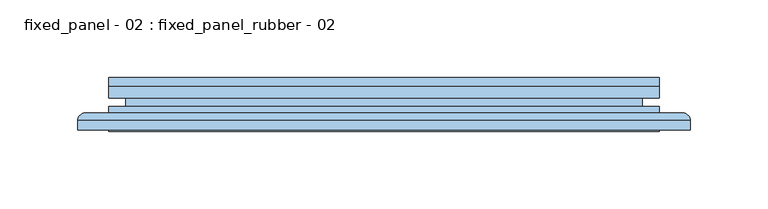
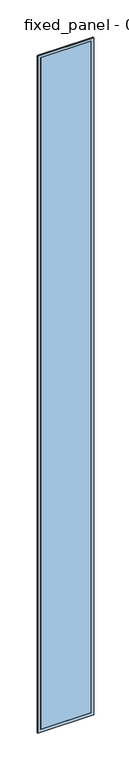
"""IFC4 building model written with IfcOpenShell, lengths in millimetres: window geometry, fixed_panel - 02 : fixed_panel_rubber - 02."""

from ifc_helpers import new_model, si_unit, frame, origin, origin_with_axes, place, context, project, spatial, polyline, ellipse_curve, outline, extrude, faceted_brep, source, transform, mapped, element, save
from ifc_brep_helpers import plane_surface, cylinder_surface, advanced_brep


def fixed_panel_02_fixed_panel_rubber_02_17601ea6(model_context):
    return source(origin(), model_context, "Body", "SolidModel", [
        advanced_brep(
        [(177.5046761, -27.9878211, 5000.0), (182.5046761, -22.9878211, 5005.0), (182.5046761, -22.9878211, -5.0), (177.5046761, -27.9878211, 0.0), (192.5023541, -22.9878211, -14.9976779), (-192.5023541, -22.9878211, -14.9976779), (-192.5023541, -22.9878211, 5014.9976779), (192.5023541, -22.9878211, 5014.9976779), (-182.5046761, -22.9878211, 5005.0), (-182.5046761, -22.9878211, -5.0), (-177.5046761, -27.9878211, 0.0), (177.5046761, -34.0, 5000.0), (177.5046761, -34.0, 0.0), (-177.5046761, -34.0, 0.0), (197.4980296, -34.0, 5019.9933535), (-197.4980296, -34.0, 5019.9933535), (-197.4980296, -34.0, -19.9933535), (197.4980296, -34.0, -19.9933535), (-177.5046761, -34.0, 5000.0), (197.4980296, -27.9834967, 5019.9933535), (197.4980296, -27.9834967, -19.9933535), (-197.4980296, -27.9834967, -19.9933535), (-177.5046761, -27.9878211, 5000.0), (-197.4980296, -27.9834967, 5019.9933535)],
        [
            (0, 1, ellipse_curve(frame((182.5046761, -27.9878211, 5005.0), z_axis=(0.7071067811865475, 0.0, -0.7071067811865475), x_axis=(0.7071067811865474, 0.0, 0.7071067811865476)), 7.0710678, 5.0)),
            (1, 2),
            (2, 3, ellipse_curve(frame((182.5046761, -27.9878211, -5.0), z_axis=(0.7071067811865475, 0.0, 0.7071067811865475), x_axis=(-0.7071067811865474, 0.0, 0.7071067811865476)), 7.0710678, 5.0)),
            (3, 0),
            (4, 5),
            (5, 6),
            (6, 7),
            (7, 4),
            (1, 8),
            (8, 9),
            (9, 2),
            (9, 10, ellipse_curve(frame((-182.5046761, -27.9878211, -5.0), z_axis=(0.7071067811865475, 0.0, -0.7071067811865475), x_axis=(0.7071067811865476, 0.0, 0.7071067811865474)), 7.0710678, 5.0)),
            (10, 3),
            (11, 0),
            (3, 12),
            (12, 11),
            (10, 13),
            (13, 12),
            (14, 15),
            (15, 16),
            (16, 17),
            (17, 14),
            (13, 18),
            (18, 11),
            (19, 14),
            (17, 20),
            (20, 19),
            (16, 21),
            (21, 20),
            (7, 19, ellipse_curve(frame((192.5023541, -27.9834967, 5014.9976779), z_axis=(0.7071067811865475, 0.0, -0.7071067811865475), x_axis=(0.7071067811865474, 0.0, 0.7071067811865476)), 7.0649521, 4.9956756)),
            (20, 4, ellipse_curve(frame((192.5023541, -27.9834967, -14.9976779), z_axis=(0.7071067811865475, 0.0, 0.7071067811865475), x_axis=(-0.7071067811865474, 0.0, 0.7071067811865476)), 7.0649521, 4.9956756)),
            (21, 5, ellipse_curve(frame((-192.5023541, -27.9834967, -14.9976779), z_axis=(0.7071067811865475, 0.0, -0.7071067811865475), x_axis=(0.7071067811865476, 0.0, 0.7071067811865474)), 7.0649521, 4.9956756)),
            (8, 22, ellipse_curve(frame((-182.5046761, -27.9878211, 5005.0), z_axis=(-0.7071067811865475, 0.0, -0.7071067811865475), x_axis=(0.7071067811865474, 0.0, -0.7071067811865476)), 7.0710678, 5.0)),
            (22, 10),
            (22, 18),
            (15, 23),
            (23, 21),
            (23, 6, ellipse_curve(frame((-192.5023541, -27.9834967, 5014.9976779), z_axis=(-0.7071067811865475, 0.0, -0.7071067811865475), x_axis=(0.7071067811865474, 0.0, -0.7071067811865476)), 7.0649521, 4.9956756)),
            (0, 22),
            (19, 23),
        ],
        [
            cylinder_surface(frame((182.5046761, -27.9878211, 5000.0), z_axis=(0.0, 0.0, 1.0), x_axis=(1.0, 0.0, 0.0)), 5.0),
            plane_surface(frame((-192.5023541, -22.9878211, 5014.9976779), z_axis=(0.0, 1.0, 0.0), x_axis=(1.0, 0.0, 0.0))),
            cylinder_surface(frame((177.5046761, -27.9878211, -5.0), z_axis=(1.0, 0.0, 0.0), x_axis=(0.0, 0.0, -1.0)), 5.0),
            plane_surface(frame((177.5046761, -27.9878211, 5000.0), z_axis=(-1.0, 0.0, 0.0), x_axis=(0.0, 0.0, -1.0))),
            plane_surface(frame((177.5046761, -27.9878211, 0.0), z_axis=(0.0, 0.0, 1.0), x_axis=(-1.0, 0.0, 0.0))),
            plane_surface(frame((-177.5046761, -34.0, 5000.0), z_axis=(0.0, -1.0, 0.0), x_axis=(1.0, 0.0, 0.0))),
            plane_surface(frame((197.4980296, -34.0, 5019.9933535), z_axis=(1.0, 0.0, 0.0), x_axis=(0.0, 0.0, -1.0))),
            plane_surface(frame((197.4980296, -34.0, -19.9933535), z_axis=(0.0, 0.0, -1.0), x_axis=(-1.0, 0.0, 0.0))),
            cylinder_surface(frame((192.5023541, -27.9834967, 5000.0), z_axis=(0.0, 0.0, 1.0), x_axis=(1.0, 0.0, 0.0)), 4.9956756),
            cylinder_surface(frame((177.5046761, -27.9834967, -14.9976779), z_axis=(1.0, 0.0, 0.0), x_axis=(0.0, 0.0, -1.0)), 4.9956756),
            cylinder_surface(frame((-182.5046761, -27.9878211, 0.0), z_axis=(0.0, 0.0, -1.0), x_axis=(-1.0, 0.0, 0.0)), 5.0),
            plane_surface(frame((-177.5046761, -27.9878211, 0.0), z_axis=(1.0, 0.0, 0.0), x_axis=(0.0, 0.0, 1.0))),
            plane_surface(frame((-197.4980296, -34.0, -19.9933535), z_axis=(-1.0, 0.0, 0.0), x_axis=(0.0, 0.0, 1.0))),
            cylinder_surface(frame((-192.5023541, -27.9834967, 0.0), z_axis=(0.0, 0.0, -1.0), x_axis=(-1.0, 0.0, 0.0)), 4.9956756),
            cylinder_surface(frame((-177.5046761, -27.9878211, 5005.0), z_axis=(-1.0, 0.0, 0.0), x_axis=(0.0, 0.0, 1.0)), 5.0),
            plane_surface(frame((-177.5046761, -27.9878211, 5000.0), z_axis=(0.0, 0.0, -1.0), x_axis=(1.0, 0.0, 0.0))),
            plane_surface(frame((-197.4980296, -34.0, 5019.9933535), z_axis=(0.0, 0.0, 1.0), x_axis=(1.0, 0.0, 0.0))),
            cylinder_surface(frame((-177.5046761, -27.9834967, 5014.9976779), z_axis=(-1.0, 0.0, 0.0), x_axis=(0.0, 0.0, 1.0)), 4.9956756),
        ],
        [
            (0, [[1, 2, 3, 4]]),
            (1, [[5, 6, 7, 8], [9, 10, 11, -2]]),
            (2, [[-3, -11, 12, 13]]),
            (3, [[14, -4, 15, 16]]),
            (4, [[-15, -13, 17, 18]]),
            (5, [[19, 20, 21, 22], [-18, 23, 24, -16]]),
            (6, [[25, -22, 26, 27]]),
            (7, [[-26, -21, 28, 29]]),
            (8, [[30, -27, 31, -8]]),
            (9, [[-31, -29, 32, -5]]),
            (10, [[-12, -10, 33, 34]]),
            (11, [[-17, -34, 35, -23]]),
            (12, [[-28, -20, 36, 37]]),
            (13, [[-32, -37, 38, -6]]),
            (14, [[-33, -9, -1, 39]]),
            (15, [[-35, -39, -14, -24]]),
            (16, [[-36, -19, -25, 40]]),
            (17, [[-38, -40, -30, -7]]),
        ],
    ),
        faceted_brep([(151.5046761, -26.0, 4974.0), (151.5046761, -6.0, 4974.0), (151.5046761, -6.0, 26.0), (151.5046761, -26.0, 26.0), (177.5046761, -6.0, 0.0), (-177.5046761, -6.0, 0.0), (-177.5046761, -6.0, 5000.0), (177.5046761, -6.0, 5000.0), (-151.5046761, -6.0, 4974.0), (-151.5046761, -6.0, 26.0), (-151.5046761, -26.0, 26.0), (177.5046761, -26.0, 5000.0), (-177.5046761, -26.0, 5000.0), (-177.5046761, -26.0, 0.0), (177.5046761, -26.0, 0.0), (-151.5046761, -26.0, 4974.0), (177.5046761, -18.8, 5000.0), (177.5046761, -18.8, 0.0), (-177.5046761, -18.8, 0.0), (-177.5046761, -18.8, 5000.0), (166.5046761, -18.8, 4989.0), (-166.5046761, -18.8, 4989.0), (-166.5046761, -18.8, 11.0), (166.5046761, -18.8, 11.0), (166.5046761, -13.2, 4989.0), (166.5046761, -13.2, 11.0), (-166.5046761, -13.2, 11.0), (177.5046761, -13.2, 5000.0), (-177.5046761, -13.2, 5000.0), (-177.5046761, -13.2, 0.0), (177.5046761, -13.2, 0.0), (-166.5046761, -13.2, 4989.0)], [[[0, 1, 2, 3]], [[4, 5, 6, 7], [1, 8, 9, 2]], [[3, 2, 9, 10]], [[11, 12, 13, 14], [3, 10, 15, 0]], [[16, 11, 14, 17]], [[17, 14, 13, 18]], [[17, 18, 19, 16], [20, 21, 22, 23]], [[24, 20, 23, 25]], [[25, 23, 22, 26]], [[27, 28, 29, 30], [25, 26, 31, 24]], [[7, 27, 30, 4]], [[4, 30, 29, 5]], [[10, 9, 8, 15]], [[18, 13, 12, 19]], [[26, 22, 21, 31]], [[5, 29, 28, 6]], [[15, 8, 1, 0]], [[19, 12, 11, 16]], [[31, 21, 20, 24]], [[6, 28, 27, 7]]]),
        extrude(outline(polyline([(177.5046761, -34.0), (-177.5046761, -34.0), (-177.5046761, -26.0), (177.5046761, -26.0), (177.5046761, -34.0)])), origin_with_axes(), (0.0, 0.0, 1.0), 5000.0),
        extrude(outline(polyline([(177.5046761, -6.0), (-177.5046761, -6.0), (-177.5046761, 0.0), (177.5046761, 0.0), (177.5046761, -6.0)])), origin_with_axes(), (0.0, 0.0, 1.0), 5000.0),
    ])


if __name__ == "__main__":
    model = new_model("IFC4")
    model_context = context("Model", 3, world=origin())
    ifc_project = project(units=[si_unit("LENGTHUNIT", "METRE", prefix="MILLI")], contexts=[model_context])
    site = spatial("IfcSite", under=ifc_project)
    building = spatial("IfcBuilding", under=site)
    placement = place(None, origin())
    fixed_panel_02_fixed_panel_rubber_02_shape = fixed_panel_02_fixed_panel_rubber_02_17601ea6(model_context)
    element("IfcWindow", 1, ObjectType="fixed_panel - 02 : fixed_panel_rubber - 02", at=placement, inside=building, context=model_context, shape_type="MappedRepresentation", body=[
        mapped(fixed_panel_02_fixed_panel_rubber_02_shape, transform((0.0, 0.0, 0.0), x_axis=(1.0, 0.0, 0.0), y_axis=(0.0, 1.0, 0.0), z_axis=(0.0, 0.0, 1.0))),
    ])
    save(model, "model.ifc")
